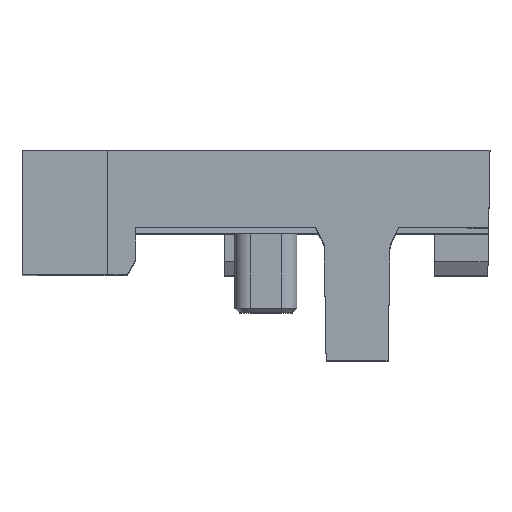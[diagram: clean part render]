
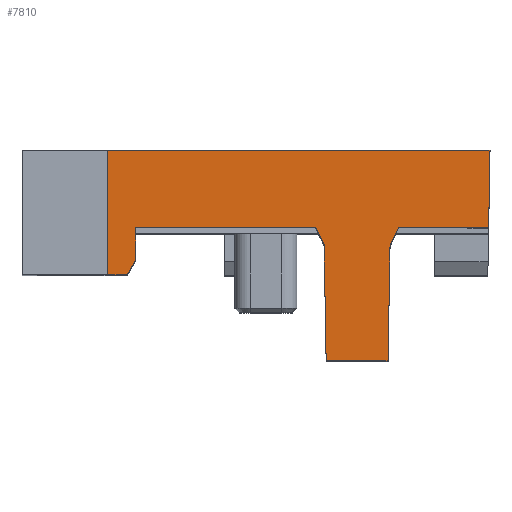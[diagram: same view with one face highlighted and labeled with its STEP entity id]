
A CAD part, top view. The second image highlights one B-rep face of the part: STEP entity #7810.
In plain terms, the highlighted planar face has unit normal (0, -0.018, 1).
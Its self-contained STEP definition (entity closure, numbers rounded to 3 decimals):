
#4044=DIRECTION('',(1.,0.,0.));
#4045=VECTOR('',#4044,3.251);
#4046=CARTESIAN_POINT('',(-3.55,0.8,21.351));
#4047=LINE('',#4046,#4045);
#4072=DIRECTION('',(1.,0.,0.));
#4073=VECTOR('',#4072,6.5);
#4074=CARTESIAN_POINT('',(-13.05,0.8,21.351));
#4075=LINE('',#4074,#4073);
#4531=DIRECTION('',(-0.447,-0.894,-0.016));
#4532=VECTOR('',#4531,0.693);
#4533=CARTESIAN_POINT('',(-3.55,0.8,21.351));
#4534=LINE('',#4533,#4532);
#4538=DIRECTION('',(-0.017,-1.,-0.017));
#4539=VECTOR('',#4538,4.182);
#4540=CARTESIAN_POINT('',(-3.86,0.181,
21.34));
#4541=LINE('',#4540,#4539);
#4545=DIRECTION('',(-1.,0.,0.));
#4546=VECTOR('',#4545,2.235);
#4547=CARTESIAN_POINT('',(-3.933,-4.,
21.267));
#4548=LINE('',#4547,#4546);
#4552=DIRECTION('',(-0.017,1.,0.017));
#4553=VECTOR('',#4552,4.182);
#4554=CARTESIAN_POINT('',(-6.167,-4.,
21.267));
#4555=LINE('',#4554,#4553);
#4559=DIRECTION('',(-0.447,0.894,0.016));
#4560=VECTOR('',#4559,0.693);
#4561=CARTESIAN_POINT('',(-6.24,0.181,
21.34));
#4562=LINE('',#4561,#4560);
#4566=DIRECTION('',(0.,-1.,-0.017));
#4567=VECTOR('',#4566,1.181);
#4568=CARTESIAN_POINT('',(-13.05,0.8,21.351));
#4569=LINE('',#4568,#4567);
#4573=DIRECTION('',(0.5,0.866,0.015));
#4574=VECTOR('',#4573,0.6);
#4575=CARTESIAN_POINT('',(-13.35,-0.9,21.321));
#4576=LINE('',#4575,#4574);
#4580=DIRECTION('',(1.,0.,0.));
#4581=VECTOR('',#4580,13.8);
#4582=CARTESIAN_POINT('',(-14.05,3.6,21.4));
#4583=LINE('',#4582,#4581);
#4587=DIRECTION('',(-0.017,-1.,-0.017));
#4588=VECTOR('',#4587,2.801);
#4589=CARTESIAN_POINT('',(-0.25,3.6,21.4));
#4590=LINE('',#4589,#4588);
#5701=DIRECTION('',(-1.,0.,0.));
#5702=VECTOR('',#5701,0.7);
#5703=CARTESIAN_POINT('',(-13.35,-0.9,21.321));
#5704=LINE('',#5703,#5702);
#5870=DIRECTION('',(0.,-1.,-0.017));
#5871=VECTOR('',#5870,4.501);
#5872=CARTESIAN_POINT('',(-14.05,3.6,21.4));
#5873=LINE('',#5872,#5871);
#6538=CARTESIAN_POINT('',(-14.05,3.6,21.4));
#6539=CARTESIAN_POINT('',(-14.05,-0.9,21.321));
#6540=VERTEX_POINT('',#6538);
#6541=VERTEX_POINT('',#6539);
#6542=CARTESIAN_POINT('',(-0.25,3.6,21.4));
#6543=VERTEX_POINT('',#6542);
#6747=CARTESIAN_POINT('',(-13.35,-0.9,21.321));
#6748=CARTESIAN_POINT('',(-13.05,-0.38,21.331));
#6749=VERTEX_POINT('',#6747);
#6750=VERTEX_POINT('',#6748);
#6755=CARTESIAN_POINT('',(-0.299,0.8,21.351));
#6756=VERTEX_POINT('',#6755);
#6757=CARTESIAN_POINT('',(-3.55,0.8,21.351));
#6758=VERTEX_POINT('',#6757);
#6773=CARTESIAN_POINT('',(-13.05,0.8,21.351));
#6774=CARTESIAN_POINT('',(-6.55,0.8,21.351));
#6775=VERTEX_POINT('',#6773);
#6776=VERTEX_POINT('',#6774);
#6795=CARTESIAN_POINT('',(-6.24,0.181,
21.34));
#6796=VERTEX_POINT('',#6795);
#6797=CARTESIAN_POINT('',(-3.86,0.181,
21.34));
#6798=VERTEX_POINT('',#6797);
#6847=CARTESIAN_POINT('',(-3.933,-4.,
21.267));
#6848=VERTEX_POINT('',#6847);
#6849=CARTESIAN_POINT('',(-6.167,-4.,
21.267));
#6850=VERTEX_POINT('',#6849);
#7783=CARTESIAN_POINT('',(-22.32,3.6,21.4));
#7784=DIRECTION('',(0.,-0.017,1.));
#7785=DIRECTION('',(1.,0.,0.));
#7786=AXIS2_PLACEMENT_3D('',#7783,#7784,#7785);
#7787=PLANE('',#7786);
#7789=ORIENTED_EDGE('',*,*,#7788,.T.);
#7790=ORIENTED_EDGE('',*,*,#7655,.T.);
#7792=ORIENTED_EDGE('',*,*,#7791,.T.);
#7793=ORIENTED_EDGE('',*,*,#7713,.T.);
#7795=ORIENTED_EDGE('',*,*,#7794,.T.);
#7796=ORIENTED_EDGE('',*,*,#7448,.F.);
#7798=ORIENTED_EDGE('',*,*,#7797,.T.);
#7800=ORIENTED_EDGE('',*,*,#7799,.F.);
#7802=ORIENTED_EDGE('',*,*,#7801,.T.);
#7804=ORIENTED_EDGE('',*,*,#7803,.F.);
#7805=ORIENTED_EDGE('',*,*,#7176,.T.);
#7806=ORIENTED_EDGE('',*,*,#7316,.T.);
#7807=ORIENTED_EDGE('',*,*,#7431,.F.);
#7808=EDGE_LOOP('',(#7789,#7790,#7792,#7793,#7795,#7796,#7798,#7800,#7802,#7804,
#7805,#7806,#7807));
#7809=FACE_OUTER_BOUND('',#7808,.F.);
#7810=ADVANCED_FACE('',(#7809),#7787,.T.);
#7176=EDGE_CURVE('',#6540,#6543,#4583,.T.);
#7316=EDGE_CURVE('',#6543,#6756,#4590,.T.);
#7431=EDGE_CURVE('',#6758,#6756,#4047,.T.);
#7448=EDGE_CURVE('',#6775,#6776,#4075,.T.);
#7655=EDGE_CURVE('',#6798,#6848,#4541,.T.);
#7713=EDGE_CURVE('',#6850,#6796,#4555,.T.);
#7788=EDGE_CURVE('',#6758,#6798,#4534,.T.);
#7791=EDGE_CURVE('',#6848,#6850,#4548,.T.);
#7794=EDGE_CURVE('',#6796,#6776,#4562,.T.);
#7797=EDGE_CURVE('',#6775,#6750,#4569,.T.);
#7799=EDGE_CURVE('',#6749,#6750,#4576,.T.);
#7801=EDGE_CURVE('',#6749,#6541,#5704,.T.);
#7803=EDGE_CURVE('',#6540,#6541,#5873,.T.);
